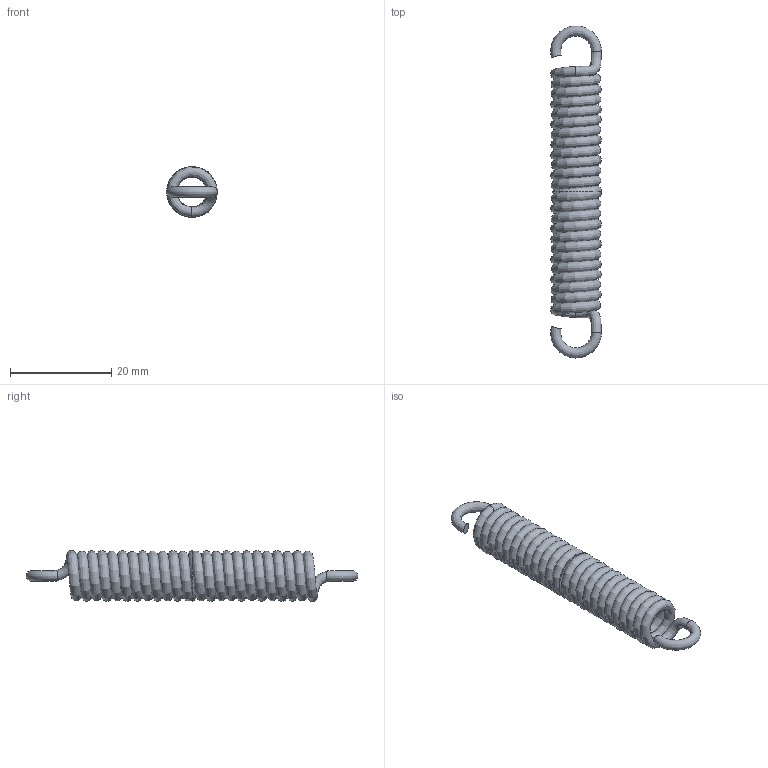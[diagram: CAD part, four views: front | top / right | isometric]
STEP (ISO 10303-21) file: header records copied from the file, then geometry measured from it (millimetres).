
FILE_DESCRIPTION(/* description */ ('183 | 10,66 | 0'),/* implementation_level */ '2;1');
FILE_NAME(/* name */ 'T21620.step',/* time_stamp */ '2026-10-05T10:18:33+02:00',/* author */ ('impex-ready.pl'),/* organization */ ('T21620'),/* preprocessor_version */ 'ST-DEVELOPER v20.1',/* originating_system */ 'Autodesk Inventor 2026',/* authorisation */ 'stal nierdzewna');
FILE_SCHEMA (('AUTOMOTIVE_DESIGN { 1 0 10303 214 3 1 1 }'));
Length unit declared in the file: millimetre
Products named in the file (1): T21620
Bounding box: 9.98 x 65.59 x 10 mm (x, y, z)
Volume: 2017.7 mm3; surface area: 4053.4 mm2
Topology: 1 solids, 1 shells, 10 faces, 32 edges, 20 vertices
Faces by surface type: bspline 6, plane 4
Entity records: 4714 total; most frequent: CARTESIAN_POINT 4426, ORIENTED_EDGE 64, DIRECTION 34, EDGE_CURVE 32, B_SPLINE_CURVE_WITH_KNOTS 20, VERTEX_POINT 20, AXIS2_PLACEMENT_3D 17, CIRCLE 12
